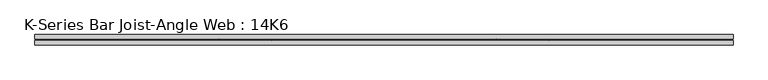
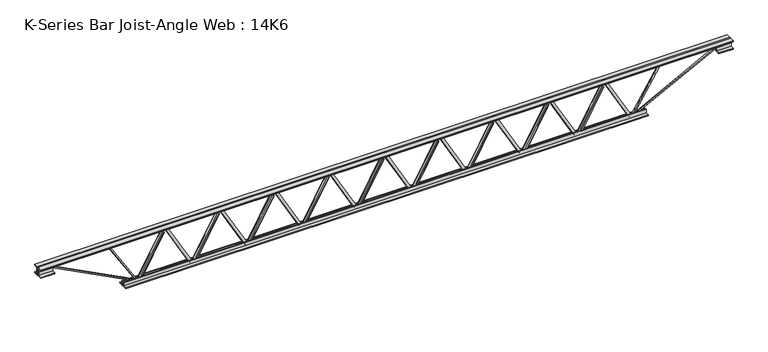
"""IFC4 building model written with IfcOpenShell, lengths in millimetres: beam geometry, K-Series Bar Joist-Angle Web : 14K6."""

from ifc_helpers import new_model, si_unit, frame, origin, place, context, project, spatial, polyline, outline, extrude, faceted_brep, source, transform, mapped, element, save


def k_series_bar_joist_angle_web_14k6_e2c2b74f(model_context):
    return source(origin(), model_context, "Body", "SolidModel", [
        extrude(outline(polyline([(-4.7625, 4.7625), (-4.7625, 0.0), (-17.4625, 0.0), (-17.4625, 4.7625), (-4.7625, 4.7625)])), frame((1350.1845268, 0.0, -139.7), z_axis=(-0.4881348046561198, 0.0, 0.8727682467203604), x_axis=(0.0, -1.0, 0.0)), (0.0, 0.0, 1.0), 320.1308034),
        extrude(outline(polyline([(-174.625, 1381.6541667), (-155.575, 1381.6541667), (-155.575, 1380.8904331), (174.625, 1196.2112665), (174.625, 1177.925), (155.575, 1177.925), (155.575, 1185.0387335), (-174.625, 1369.7179002), (-174.625, 1381.6541667)])), frame((0.0, 0.0, 0.0), z_axis=(0.0, 1.0, 0.0), x_axis=(0.0, 0.0, 1.0)), (0.0, 0.0, 1.0), 4.7625),
        faceted_brep([(986.8958333, 0.0, -155.575), (986.8958333, 0.0, -174.625), (986.8958333, -4.7625, -174.625), (986.8958333, -4.7625, -155.575), (987.6595669, 0.0, -155.575), (1172.3387335, 0.0, 174.625), (1190.625, 0.0, 174.625), (1190.625, 0.0, 155.575), (1183.5112665, 0.0, 155.575), (998.8320998, 0.0, -174.625), (998.8320998, -4.7625, -174.625), (1018.3654732, -4.7625, -139.7), (1014.2089144, -4.7625, -137.375258), (1170.4759016, -4.7625, 142.024742), (1174.6324604, -4.7625, 139.7), (1183.5112665, -4.7625, 155.575), (1190.625, -4.7625, 155.575), (1190.625, -4.7625, 174.625), (1172.3387335, -4.7625, 174.625), (987.6595669, -4.7625, -155.575), (1174.6324604, -17.4625, 139.7), (1018.3654732, -17.4625, -139.7), (1014.2089144, -17.4625, -137.375258), (1170.4759016, -17.4625, 142.024742)], [[[0, 1, 2, 3]], [[1, 0, 4, 5, 6, 7, 8, 9]], [[2, 1, 9, 10]], [[3, 2, 10, 11, 12, 13, 14, 15, 16, 17, 18, 19]], [[0, 3, 19, 4]], [[9, 8, 15, 14, 20, 21, 11, 10]], [[5, 4, 19, 18]], [[7, 6, 17, 16]], [[8, 7, 16, 15]], [[6, 5, 18, 17]], [[21, 22, 12, 11]], [[20, 14, 13, 23]], [[22, 21, 20, 23]], [[12, 22, 23, 13]]]),
        extrude(outline(polyline([(-4.7625, 4.7624999), (-4.7625, 0.0), (-17.4625, 0.0), (-17.4625, 4.7624999), (-4.7625, 4.7624999)])), frame((955.4261935, 0.0, -139.7), z_axis=(-0.4881348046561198, 0.0, 0.8727682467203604), x_axis=(0.0, -1.0, 0.0)), (0.0, 0.0, 1.0), 320.1308034),
        extrude(outline(polyline([(-174.625, 986.8958333), (-155.575, 986.8958333), (-155.575, 986.1320998), (174.625, 801.4529331), (174.625, 783.1666667), (155.575, 783.1666667), (155.575, 790.2804002), (-174.625, 974.9595669), (-174.625, 986.8958333)])), frame((0.0, 0.0, 0.0), z_axis=(0.0, 1.0, 0.0), x_axis=(0.0, 0.0, 1.0)), (0.0, 0.0, 1.0), 4.7625),
        faceted_brep([(592.1375, 0.0, -155.575), (592.1375, 0.0, -174.625), (592.1375, -4.7625, -174.625), (592.1375, -4.7625, -155.575), (592.9012335, 0.0, -155.575), (777.5804002, 0.0, 174.625), (795.8666667, 0.0, 174.625), (795.8666667, 0.0, 155.575), (788.7529331, 0.0, 155.575), (604.0737665, 0.0, -174.625), (604.0737665, -4.7625, -174.625), (623.6071399, -4.7625, -139.7), (619.4505811, -4.7625, -137.375258), (775.7175683, -4.7625, 142.024742), (779.874127, -4.7625, 139.7), (788.7529331, -4.7625, 155.575), (795.8666667, -4.7625, 155.575), (795.8666667, -4.7625, 174.625), (777.5804002, -4.7625, 174.625), (592.9012335, -4.7625, -155.575), (779.874127, -17.4625, 139.7), (623.6071399, -17.4625, -139.7), (619.4505811, -17.4625, -137.375258), (775.7175683, -17.4625, 142.024742)], [[[0, 1, 2, 3]], [[1, 0, 4, 5, 6, 7, 8, 9]], [[2, 1, 9, 10]], [[3, 2, 10, 11, 12, 13, 14, 15, 16, 17, 18, 19]], [[0, 3, 19, 4]], [[9, 8, 15, 14, 20, 21, 11, 10]], [[5, 4, 19, 18]], [[7, 6, 17, 16]], [[8, 7, 16, 15]], [[6, 5, 18, 17]], [[21, 22, 12, 11]], [[20, 14, 13, 23]], [[22, 21, 20, 23]], [[12, 22, 23, 13]]]),
        extrude(outline(polyline([(-4.7625, 4.7625), (-4.7625, 0.0), (-17.4625, 0.0), (-17.4625, 4.7625), (-4.7625, 4.7625)])), frame((560.6678601, 0.0, -139.7), z_axis=(-0.4881348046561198, 0.0, 0.8727682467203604), x_axis=(0.0, -1.0, 0.0)), (0.0, 0.0, 1.0), 320.1308034),
        extrude(outline(polyline([(-174.625, 592.1375), (-155.575, 592.1375), (-155.575, 591.3737665), (174.625, 406.6945998), (174.625, 388.4083333), (155.575, 388.4083333), (155.575, 395.5220669), (-174.625, 580.2012335), (-174.625, 592.1375)])), frame((0.0, 0.0, 0.0), z_axis=(0.0, 1.0, 0.0), x_axis=(0.0, 0.0, 1.0)), (0.0, 0.0, 1.0), 4.7625),
        faceted_brep([(197.3791667, 0.0, -155.575), (197.3791667, 0.0, -174.625), (197.3791667, -4.7625, -174.625), (197.3791667, -4.7625, -155.575), (198.1429002, 0.0, -155.575), (382.8220669, 0.0, 174.625), (401.1083333, 0.0, 174.625), (401.1083333, 0.0, 155.575), (393.9945998, 0.0, 155.575), (209.3154331, 0.0, -174.625), (209.3154331, -4.7625, -174.625), (228.8488065, -4.7625, -139.7), (224.6922478, -4.7625, -137.375258), (380.9592349, -4.7625, 142.024742), (385.1157937, -4.7625, 139.7), (393.9945998, -4.7625, 155.575), (401.1083333, -4.7625, 155.575), (401.1083333, -4.7625, 174.625), (382.8220669, -4.7625, 174.625), (198.1429002, -4.7625, -155.575), (385.1157937, -17.4625, 139.7), (228.8488065, -17.4625, -139.7), (224.6922478, -17.4625, -137.375258), (380.9592349, -17.4625, 142.024742)], [[[0, 1, 2, 3]], [[1, 0, 4, 5, 6, 7, 8, 9]], [[2, 1, 9, 10]], [[3, 2, 10, 11, 12, 13, 14, 15, 16, 17, 18, 19]], [[0, 3, 19, 4]], [[9, 8, 15, 14, 20, 21, 11, 10]], [[5, 4, 19, 18]], [[7, 6, 17, 16]], [[8, 7, 16, 15]], [[6, 5, 18, 17]], [[21, 22, 12, 11]], [[20, 14, 13, 23]], [[22, 21, 20, 23]], [[12, 22, 23, 13]]]),
        extrude(outline(polyline([(-4.7625, 4.7625), (-4.7625, 0.0), (-17.4625, 0.0), (-17.4625, 4.7625), (-4.7625, 4.7625)])), frame((165.9095268, 0.0, -139.7), z_axis=(-0.4881348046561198, 0.0, 0.8727682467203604), x_axis=(0.0, -1.0, 0.0)), (0.0, 0.0, 1.0), 320.1308034),
        extrude(outline(polyline([(-174.625, 197.3791667), (-155.575, 197.3791667), (-155.575, 196.6154331), (174.625, 11.9362665), (174.625, -6.35), (155.575, -6.35), (155.575, 0.7637335), (-174.625, 185.4429002), (-174.625, 197.3791667)])), frame((0.0, 0.0, 0.0), z_axis=(0.0, 1.0, 0.0), x_axis=(0.0, 0.0, 1.0)), (0.0, 0.0, 1.0), 4.7625),
        faceted_brep([(-197.3791667, 0.0, -155.575), (-197.3791667, 0.0, -174.625), (-197.3791667, -4.7625, -174.625), (-197.3791667, -4.7625, -155.575), (-196.6154331, 0.0, -155.575), (-11.9362665, 0.0, 174.625), (6.35, 0.0, 174.625), (6.35, 0.0, 155.575), (-0.7637335, 0.0, 155.575), (-185.4429002, 0.0, -174.625), (-185.4429002, -4.7625, -174.625), (-165.9095268, -4.7625, -139.7), (-170.0660856, -4.7625, -137.375258), (-13.7990984, -4.7625, 142.024742), (-9.6425396, -4.7625, 139.7), (-0.7637335, -4.7625, 155.575), (6.35, -4.7625, 155.575), (6.35, -4.7625, 174.625), (-11.9362665, -4.7625, 174.625), (-196.6154331, -4.7625, -155.575), (-9.6425396, -17.4625, 139.7), (-165.9095268, -17.4625, -139.7), (-170.0660856, -17.4625, -137.375258), (-13.7990984, -17.4625, 142.024742)], [[[0, 1, 2, 3]], [[1, 0, 4, 5, 6, 7, 8, 9]], [[2, 1, 9, 10]], [[3, 2, 10, 11, 12, 13, 14, 15, 16, 17, 18, 19]], [[0, 3, 19, 4]], [[9, 8, 15, 14, 20, 21, 11, 10]], [[5, 4, 19, 18]], [[7, 6, 17, 16]], [[8, 7, 16, 15]], [[6, 5, 18, 17]], [[21, 22, 12, 11]], [[20, 14, 13, 23]], [[22, 21, 20, 23]], [[12, 22, 23, 13]]]),
        extrude(outline(polyline([(-4.7625, 4.7624999), (-4.7625, 0.0), (-17.4625, 0.0), (-17.4625, 4.7624999), (-4.7625, 4.7624999)])), frame((-228.8488065, 0.0, -139.7), z_axis=(-0.4881348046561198, 0.0, 0.8727682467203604), x_axis=(0.0, -1.0, 0.0)), (0.0, 0.0, 1.0), 320.1308034),
        extrude(outline(polyline([(-174.625, -197.3791667), (-155.575, -197.3791667), (-155.575, -198.1429002), (174.625, -382.8220669), (174.625, -401.1083333), (155.575, -401.1083333), (155.575, -393.9945998), (-174.625, -209.3154331), (-174.625, -197.3791667)])), frame((0.0, 0.0, 0.0), z_axis=(0.0, 1.0, 0.0), x_axis=(0.0, 0.0, 1.0)), (0.0, 0.0, 1.0), 4.7625),
        faceted_brep([(-592.1375, 0.0, -155.575), (-592.1375, 0.0, -174.625), (-592.1375, -4.7625, -174.625), (-592.1375, -4.7625, -155.575), (-591.3737665, 0.0, -155.575), (-406.6945998, 0.0, 174.625), (-388.4083333, 0.0, 174.625), (-388.4083333, 0.0, 155.575), (-395.5220669, 0.0, 155.575), (-580.2012335, 0.0, -174.625), (-580.2012335, -4.7625, -174.625), (-560.6678601, -4.7625, -139.7), (-564.8244189, -4.7625, -137.375258), (-408.5574317, -4.7625, 142.024742), (-404.400873, -4.7625, 139.7), (-395.5220669, -4.7625, 155.575), (-388.4083333, -4.7625, 155.575), (-388.4083333, -4.7625, 174.625), (-406.6945998, -4.7625, 174.625), (-591.3737665, -4.7625, -155.575), (-404.400873, -17.4625, 139.7), (-560.6678601, -17.4625, -139.7), (-564.8244189, -17.4625, -137.375258), (-408.5574317, -17.4625, 142.024742)], [[[0, 1, 2, 3]], [[1, 0, 4, 5, 6, 7, 8, 9]], [[2, 1, 9, 10]], [[3, 2, 10, 11, 12, 13, 14, 15, 16, 17, 18, 19]], [[0, 3, 19, 4]], [[9, 8, 15, 14, 20, 21, 11, 10]], [[5, 4, 19, 18]], [[7, 6, 17, 16]], [[8, 7, 16, 15]], [[6, 5, 18, 17]], [[21, 22, 12, 11]], [[20, 14, 13, 23]], [[22, 21, 20, 23]], [[12, 22, 23, 13]]]),
        extrude(outline(polyline([(-4.7625, 4.7625), (-4.7625, 0.0), (-17.4625, 0.0), (-17.4625, 4.7625), (-4.7625, 4.7625)])), frame((-623.6071399, 0.0, -139.7), z_axis=(-0.4881348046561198, 0.0, 0.8727682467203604), x_axis=(0.0, -1.0, 0.0)), (0.0, 0.0, 1.0), 320.1308034),
        extrude(outline(polyline([(-174.625, -592.1375), (-155.575, -592.1375), (-155.575, -592.9012335), (174.625, -777.5804002), (174.625, -795.8666667), (155.575, -795.8666667), (155.575, -788.7529331), (-174.625, -604.0737665), (-174.625, -592.1375)])), frame((0.0, 0.0, 0.0), z_axis=(0.0, 1.0, 0.0), x_axis=(0.0, 0.0, 1.0)), (0.0, 0.0, 1.0), 4.7625),
        faceted_brep([(-986.8958333, 0.0, -155.575), (-986.8958333, 0.0, -174.625), (-986.8958333, -4.7625, -174.625), (-986.8958333, -4.7625, -155.575), (-986.1320998, 0.0, -155.575), (-801.4529331, 0.0, 174.625), (-783.1666667, 0.0, 174.625), (-783.1666667, 0.0, 155.575), (-790.2804002, 0.0, 155.575), (-974.9595669, 0.0, -174.625), (-974.9595669, -4.7625, -174.625), (-955.4261935, -4.7625, -139.7), (-959.5827522, -4.7625, -137.375258), (-803.3157651, -4.7625, 142.024742), (-799.1592063, -4.7625, 139.7), (-790.2804002, -4.7625, 155.575), (-783.1666667, -4.7625, 155.575), (-783.1666667, -4.7625, 174.625), (-801.4529331, -4.7625, 174.625), (-986.1320998, -4.7625, -155.575), (-799.1592063, -17.4625, 139.7), (-955.4261935, -17.4625, -139.7), (-959.5827522, -17.4625, -137.375258), (-803.3157651, -17.4625, 142.024742)], [[[0, 1, 2, 3]], [[1, 0, 4, 5, 6, 7, 8, 9]], [[2, 1, 9, 10]], [[3, 2, 10, 11, 12, 13, 14, 15, 16, 17, 18, 19]], [[0, 3, 19, 4]], [[9, 8, 15, 14, 20, 21, 11, 10]], [[5, 4, 19, 18]], [[7, 6, 17, 16]], [[8, 7, 16, 15]], [[6, 5, 18, 17]], [[21, 22, 12, 11]], [[20, 14, 13, 23]], [[22, 21, 20, 23]], [[12, 22, 23, 13]]]),
        extrude(outline(polyline([(-4.7625, 4.7625), (-4.7625, 0.0), (-17.4625, 0.0), (-17.4625, 4.7625), (-4.7625, 4.7625)])), frame((-1018.3654732, 0.0, -139.7), z_axis=(-0.4881348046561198, 0.0, 0.8727682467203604), x_axis=(0.0, -1.0, 0.0)), (0.0, 0.0, 1.0), 320.1308034),
        extrude(outline(polyline([(-174.625, -986.8958333), (-155.575, -986.8958333), (-155.575, -987.6595669), (174.625, -1172.3387335), (174.625, -1190.625), (155.575, -1190.625), (155.575, -1183.5112665), (-174.625, -998.8320998), (-174.625, -986.8958333)])), frame((0.0, 0.0, 0.0), z_axis=(0.0, 1.0, 0.0), x_axis=(0.0, 0.0, 1.0)), (0.0, 0.0, 1.0), 4.7625),
        faceted_brep([(-1381.6541667, 0.0, -155.575), (-1381.6541667, 0.0, -174.625), (-1381.6541667, -4.7625, -174.625), (-1381.6541667, -4.7625, -155.575), (-1380.8904331, 0.0, -155.575), (-1196.2112665, 0.0, 174.625), (-1177.925, 0.0, 174.625), (-1177.925, 0.0, 155.575), (-1185.0387335, 0.0, 155.575), (-1369.7179002, 0.0, -174.625), (-1369.7179002, -4.7625, -174.625), (-1350.1845268, -4.7625, -139.7), (-1354.3410856, -4.7625, -137.375258), (-1198.0740984, -4.7625, 142.024742), (-1193.9175396, -4.7625, 139.7), (-1185.0387335, -4.7625, 155.575), (-1177.925, -4.7625, 155.575), (-1177.925, -4.7625, 174.625), (-1196.2112665, -4.7625, 174.625), (-1380.8904331, -4.7625, -155.575), (-1193.9175396, -17.4625, 139.7), (-1350.1845268, -17.4625, -139.7), (-1354.3410856, -17.4625, -137.375258), (-1198.0740984, -17.4625, 142.024742)], [[[0, 1, 2, 3]], [[1, 0, 4, 5, 6, 7, 8, 9]], [[2, 1, 9, 10]], [[3, 2, 10, 11, 12, 13, 14, 15, 16, 17, 18, 19]], [[0, 3, 19, 4]], [[9, 8, 15, 14, 20, 21, 11, 10]], [[5, 4, 19, 18]], [[7, 6, 17, 16]], [[8, 7, 16, 15]], [[6, 5, 18, 17]], [[21, 22, 12, 11]], [[20, 14, 13, 23]], [[22, 21, 20, 23]], [[12, 22, 23, 13]]]),
        extrude(outline(polyline([(-4.7625, 4.7625), (-4.7625, 0.0), (-17.4625, 0.0), (-17.4625, 4.7625), (-4.7625, 4.7625)])), frame((1744.9428601, 0.0, -139.7), z_axis=(-0.4881348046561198, 0.0, 0.8727682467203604), x_axis=(0.0, -1.0, 0.0)), (0.0, 0.0, 1.0), 320.1308034),
        extrude(outline(polyline([(-174.625, 1776.4125), (-155.575, 1776.4125), (-155.575, 1775.6487665), (174.625, 1590.9695998), (174.625, 1572.6833333), (155.575, 1572.6833333), (155.575, 1579.7970669), (-174.625, 1764.4762335), (-174.625, 1776.4125)])), frame((0.0, 0.0, 0.0), z_axis=(0.0, 1.0, 0.0), x_axis=(0.0, 0.0, 1.0)), (0.0, 0.0, 1.0), 4.7625),
        faceted_brep([(1381.6541667, 0.0, -155.575), (1381.6541667, 0.0, -174.625), (1381.6541667, -4.7625, -174.625), (1381.6541667, -4.7625, -155.575), (1382.4179002, 0.0, -155.575), (1567.0970669, 0.0, 174.625), (1585.3833333, 0.0, 174.625), (1585.3833333, 0.0, 155.575), (1578.2695998, 0.0, 155.575), (1393.5904331, 0.0, -174.625), (1393.5904331, -4.7625, -174.625), (1413.1238065, -4.7625, -139.7), (1408.9672478, -4.7625, -137.375258), (1565.2342349, -4.7625, 142.024742), (1569.3907937, -4.7625, 139.7), (1578.2695998, -4.7625, 155.575), (1585.3833333, -4.7625, 155.575), (1585.3833333, -4.7625, 174.625), (1567.0970669, -4.7625, 174.625), (1382.4179002, -4.7625, -155.575), (1569.3907937, -17.4625, 139.7), (1413.1238065, -17.4625, -139.7), (1408.9672478, -17.4625, -137.375258), (1565.2342349, -17.4625, 142.024742)], [[[0, 1, 2, 3]], [[1, 0, 4, 5, 6, 7, 8, 9]], [[2, 1, 9, 10]], [[3, 2, 10, 11, 12, 13, 14, 15, 16, 17, 18, 19]], [[0, 3, 19, 4]], [[9, 8, 15, 14, 20, 21, 11, 10]], [[5, 4, 19, 18]], [[7, 6, 17, 16]], [[8, 7, 16, 15]], [[6, 5, 18, 17]], [[21, 22, 12, 11]], [[20, 14, 13, 23]], [[22, 21, 20, 23]], [[12, 22, 23, 13]]]),
        extrude(outline(polyline([(-4.7625, 4.7624999), (-4.7625, 0.0), (-17.4625, 0.0), (-17.4625, 4.7624999), (-4.7625, 4.7624999)])), frame((-1413.1238065, 0.0, -139.7), z_axis=(-0.4881348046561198, 0.0, 0.8727682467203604), x_axis=(0.0, -1.0, 0.0)), (0.0, 0.0, 1.0), 320.1308034),
        extrude(outline(polyline([(-174.625, -1381.6541667), (-155.575, -1381.6541667), (-155.575, -1382.4179002), (174.625, -1567.0970669), (174.625, -1585.3833333), (155.575, -1585.3833333), (155.575, -1578.2695998), (-174.625, -1393.5904331), (-174.625, -1381.6541667)])), frame((0.0, 0.0, 0.0), z_axis=(0.0, 1.0, 0.0), x_axis=(0.0, 0.0, 1.0)), (0.0, 0.0, 1.0), 4.7625),
        faceted_brep([(-1776.4125, 0.0, -155.575), (-1776.4125, 0.0, -174.625), (-1776.4125, -4.7625, -174.625), (-1776.4125, -4.7625, -155.575), (-1775.6487665, 0.0, -155.575), (-1590.9695998, 0.0, 174.625), (-1572.6833333, 0.0, 174.625), (-1572.6833333, 0.0, 155.575), (-1579.7970669, 0.0, 155.575), (-1764.4762335, 0.0, -174.625), (-1764.4762335, -4.7625, -174.625), (-1744.9428601, -4.7625, -139.7), (-1749.0994189, -4.7625, -137.375258), (-1592.8324317, -4.7625, 142.024742), (-1588.675873, -4.7625, 139.7), (-1579.7970669, -4.7625, 155.575), (-1572.6833333, -4.7625, 155.575), (-1572.6833333, -4.7625, 174.625), (-1590.9695998, -4.7625, 174.625), (-1775.6487665, -4.7625, -155.575), (-1588.675873, -17.4625, 139.7), (-1744.9428601, -17.4625, -139.7), (-1749.0994189, -17.4625, -137.375258), (-1592.8324317, -17.4625, 142.024742)], [[[0, 1, 2, 3]], [[1, 0, 4, 5, 6, 7, 8, 9]], [[2, 1, 9, 10]], [[3, 2, 10, 11, 12, 13, 14, 15, 16, 17, 18, 19]], [[0, 3, 19, 4]], [[9, 8, 15, 14, 20, 21, 11, 10]], [[5, 4, 19, 18]], [[7, 6, 17, 16]], [[8, 7, 16, 15]], [[6, 5, 18, 17]], [[21, 22, 12, 11]], [[20, 14, 13, 23]], [[22, 21, 20, 23]], [[12, 22, 23, 13]]]),
        extrude(outline(polyline([(4.7625, 177.8), (36.5125, 177.8), (36.5125, 171.45), (11.1125, 171.45), (11.1125, 146.05), (4.7625, 146.05), (4.7625, 177.8)])), frame((-2487.6125, 0.0, 0.0), z_axis=(1.0, 0.0, 0.0), x_axis=(0.0, 1.0, 0.0)), (0.0, 0.0, 1.0), 4975.225),
        extrude(outline(polyline([(-4.7625, 177.8), (-4.7625, 146.05), (-11.1125, 146.05), (-11.1125, 171.45), (-36.5125, 171.45), (-36.5125, 177.8), (-4.7625, 177.8)])), frame((-2487.6125, 0.0, 0.0), z_axis=(1.0, 0.0, 0.0), x_axis=(0.0, 1.0, 0.0)), (0.0, 0.0, 1.0), 4975.225),
        extrude(outline(polyline([(4.7625, -177.8), (4.7625, -146.05), (11.1125, -146.05), (11.1125, -171.45), (36.5125, -171.45), (36.5125, -177.8), (4.7625, -177.8)])), frame((-1878.0125, 0.0, 0.0), z_axis=(1.0, 0.0, 0.0), x_axis=(0.0, 1.0, 0.0)), (0.0, 0.0, 1.0), 3756.025),
        extrude(outline(polyline([(-4.7625, -177.8), (-36.5125, -177.8), (-36.5125, -171.45), (-11.1125, -171.45), (-11.1125, -146.05), (-4.7625, -146.05), (-4.7625, -177.8)])), frame((-1878.0125, 0.0, 0.0), z_axis=(1.0, 0.0, 0.0), x_axis=(0.0, 1.0, 0.0)), (0.0, 0.0, 1.0), 3756.025),
        extrude(outline(polyline([(4.7625, 114.3), (4.7625, 146.05), (11.1125, 146.05), (11.1125, 120.65), (36.5125, 120.65), (36.5125, 114.3), (4.7625, 114.3)])), frame((2386.0125, 0.0, 0.0), z_axis=(1.0, 0.0, 0.0), x_axis=(0.0, 1.0, 0.0)), (0.0, 0.0, 1.0), 101.6),
        extrude(outline(polyline([(-4.7625, 114.3), (-36.5125, 114.3), (-36.5125, 120.65), (-11.1125, 120.65), (-11.1125, 146.05), (-4.7625, 146.05), (-4.7625, 114.3)])), frame((2386.0125, 0.0, 0.0), z_axis=(1.0, 0.0, 0.0), x_axis=(0.0, 1.0, 0.0)), (0.0, 0.0, 1.0), 101.6),
        extrude(outline(polyline([(-4.7625, 114.3), (-36.5125, 114.3), (-36.5125, 120.65), (-11.1125, 120.65), (-11.1125, 146.05), (-4.7625, 146.05), (-4.7625, 114.3)])), frame((-2487.6125, 0.0, 0.0), z_axis=(1.0, 0.0, 0.0), x_axis=(0.0, 1.0, 0.0)), (0.0, 0.0, 1.0), 101.6),
        extrude(outline(polyline([(36.5125, 114.3), (4.7625, 114.3), (4.7625, 146.05), (11.1125, 146.05), (11.1125, 120.65), (36.5125, 120.65), (36.5125, 114.3)])), frame((-2487.6125, 0.0, 0.0), z_axis=(1.0, 0.0, 0.0), x_axis=(0.0, 1.0, 0.0)), (0.0, 0.0, 1.0), 101.6),
        extrude(outline(polyline([(4.7625, 4.7625), (4.7625, -4.7625), (-4.7625, -4.7625), (-4.7625, 4.7625), (4.7625, 4.7625)])), frame((-1776.4125, 0.0, -171.45), z_axis=(-0.5279617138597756, 0.0, 0.8492681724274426), x_axis=(0.0, -1.0, 0.0)), (0.0, 0.0, 1.0), 373.8512879),
        extrude(outline(polyline([(4.7625, 4.7625), (4.7625, -4.7625), (-4.7625, -4.7625), (-4.7625, 4.7625), (4.7625, 4.7625)])), frame((1776.4125, 0.0, -171.45), z_axis=(0.5279617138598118, 0.0, 0.8492681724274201), x_axis=(0.0, -1.0, 0.0)), (0.0, 0.0, 1.0), 373.8512879),
        extrude(outline(polyline([(0.0, -9.525), (0.0, 0.0), (687.3270037, 0.0), (687.3270037, -9.525), (0.0, -9.525)])), frame((-2388.2124627, 4.7625, 141.8260717), z_axis=(0.4619344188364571, 0.0, 0.886914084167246), x_axis=(0.886914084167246, 0.0, -0.4619344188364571)), (0.0, 0.0, 1.0), 9.525),
        extrude(outline(polyline([(0.0, -9.525), (0.0, 0.0), (687.3270037, 0.0), (687.3270037, -9.525), (0.0, -9.525)])), frame((2388.2124627, -4.7625, 141.8260717), z_axis=(-0.46193441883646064, 0.0, 0.8869140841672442), x_axis=(-0.8869140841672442, 0.0, -0.46193441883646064)), (0.0, 0.0, 1.0), 9.525),
    ])


if __name__ == "__main__":
    model = new_model("IFC4")
    model_context = context("Model", 3, world=origin())
    ifc_project = project(units=[si_unit("LENGTHUNIT", "METRE", prefix="MILLI")], contexts=[model_context])
    site = spatial("IfcSite", under=ifc_project)
    building = spatial("IfcBuilding", under=site)
    placement = place(None, origin())
    k_series_bar_joist_angle_web_14k6_shape = k_series_bar_joist_angle_web_14k6_e2c2b74f(model_context)
    element("IfcBeam", 1, ObjectType="K-Series Bar Joist-Angle Web : 14K6", at=placement, inside=building, context=model_context, shape_type="MappedRepresentation", body=[
        mapped(k_series_bar_joist_angle_web_14k6_shape, transform((0.0, 0.0, 0.0), x_axis=(1.0, 0.0, 0.0), y_axis=(0.0, 1.0, 0.0), z_axis=(0.0, 0.0, 1.0))),
    ])
    save(model, "model.ifc")
